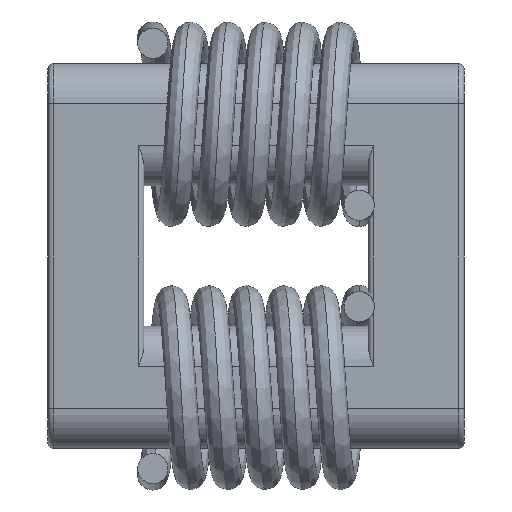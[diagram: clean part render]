
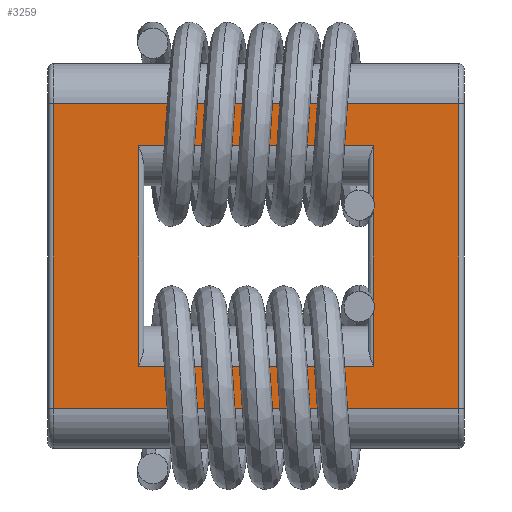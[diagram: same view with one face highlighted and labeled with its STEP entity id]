
A CAD part, front view. The second image highlights one B-rep face of the part: STEP entity #3259.
In plain terms, the highlighted planar face has unit normal (0, -1, 0).
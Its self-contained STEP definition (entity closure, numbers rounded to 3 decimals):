
#121 = ORIENTED_EDGE ( 'NONE', *, *, #5367, .T. ) ;
#123 = ORIENTED_EDGE ( 'NONE', *, *, #2606, .T. ) ;
#130 = VECTOR ( 'NONE', #5962, 1000. ) ;
#192 = VERTEX_POINT ( 'NONE', #1122 ) ;
#378 = CARTESIAN_POINT ( 'NONE',  ( -50.218, 8.69, 6.2 ) ) ;
#431 = CARTESIAN_POINT ( 'NONE',  ( -37.018, 8.69, 0. ) ) ;
#516 = LINE ( 'NONE', #431, #2998 ) ;
#608 = EDGE_CURVE ( 'NONE', #1149, #4579, #516, .T. ) ;
#622 = ORIENTED_EDGE ( 'NONE', *, *, #1193, .T. ) ;
#627 = ORIENTED_EDGE ( 'NONE', *, *, #3620, .T. ) ;
#647 = VECTOR ( 'NONE', #742, 1000. ) ;
#662 = CARTESIAN_POINT ( 'NONE',  ( -43.618, 8.69, 6.2 ) ) ;
#663 = PLANE ( 'NONE',  #4556 ) ;
#742 = DIRECTION ( 'NONE',  ( 1., 0., 0. ) ) ;
#997 = VERTEX_POINT ( 'NONE', #4633 ) ;
#1022 = CARTESIAN_POINT ( 'NONE',  ( -32.218, 8.69, -8.55 ) ) ;
#1079 = FACE_BOUND ( 'NONE', #1212, .T. ) ;
#1122 = CARTESIAN_POINT ( 'NONE',  ( -55.018, 8.69, 8.55 ) ) ;
#1149 = VERTEX_POINT ( 'NONE', #4758 ) ;
#1187 = CARTESIAN_POINT ( 'NONE',  ( -32.218, 8.69, 8.55 ) ) ;
#1193 = EDGE_CURVE ( 'NONE', #4565, #3056, #4366, .T. ) ;
#1212 = EDGE_LOOP ( 'NONE', ( #1505, #5791, #627, #622 ) ) ;
#1306 = LINE ( 'NONE', #4844, #2177 ) ;
#1468 = LINE ( 'NONE', #662, #4734 ) ;
#1505 = ORIENTED_EDGE ( 'NONE', *, *, #4459, .T. ) ;
#1552 = CARTESIAN_POINT ( 'NONE',  ( -55.018, 8.69, -8.55 ) ) ;
#1585 = EDGE_LOOP ( 'NONE', ( #121, #2240, #123, #2110 ) ) ;
#1737 = FACE_OUTER_BOUND ( 'NONE', #1585, .T. ) ;
#2101 = LINE ( 'NONE', #4078, #130 ) ;
#2110 = ORIENTED_EDGE ( 'NONE', *, *, #5823, .T. ) ;
#2165 = CARTESIAN_POINT ( 'NONE',  ( -31.918, 8.69, -8.55 ) ) ;
#2177 = VECTOR ( 'NONE', #4360, 1000. ) ;
#2240 = ORIENTED_EDGE ( 'NONE', *, *, #2893, .T. ) ;
#2293 = CARTESIAN_POINT ( 'NONE',  ( -43.618, 8.69, 0. ) ) ;
#2341 = DIRECTION ( 'NONE',  ( 0., -1., 0. ) ) ;
#2430 = DIRECTION ( 'NONE',  ( 0., 0., 1. ) ) ;
#2606 = EDGE_CURVE ( 'NONE', #5018, #4931, #4503, .T. ) ;
#2893 = EDGE_CURVE ( 'NONE', #192, #5018, #2101, .T. ) ;
#2933 = VECTOR ( 'NONE', #2430, 1000. ) ;
#2998 = VECTOR ( 'NONE', #4612, 1000. ) ;
#3056 = VERTEX_POINT ( 'NONE', #378 ) ;
#3259 = ADVANCED_FACE ( 'NONE', ( #1737, #1079 ), #663, .T. ) ;
#3525 = CARTESIAN_POINT ( 'NONE',  ( -50.218, 8.69, -6.2 ) ) ;
#3620 = EDGE_CURVE ( 'NONE', #4579, #4565, #4811, .T. ) ;
#3970 = DIRECTION ( 'NONE',  ( 0., 0., 1. ) ) ;
#4078 = CARTESIAN_POINT ( 'NONE',  ( -55.018, 8.69, -8.55 ) ) ;
#4360 = DIRECTION ( 'NONE',  ( -1., 0., 0. ) ) ;
#4366 = LINE ( 'NONE', #5208, #2933 ) ;
#4372 = CARTESIAN_POINT ( 'NONE',  ( -43.618, 8.69, -6.2 ) ) ;
#4416 = VECTOR ( 'NONE', #3970, 1000. ) ;
#4452 = CARTESIAN_POINT ( 'NONE',  ( -37.018, 8.69, -6.2 ) ) ;
#4459 = EDGE_CURVE ( 'NONE', #3056, #1149, #1468, .T. ) ;
#4503 = LINE ( 'NONE', #2165, #647 ) ;
#4556 = AXIS2_PLACEMENT_3D ( 'NONE', #2293, #2341, #5587 ) ;
#4565 = VERTEX_POINT ( 'NONE', #3525 ) ;
#4579 = VERTEX_POINT ( 'NONE', #4452 ) ;
#4612 = DIRECTION ( 'NONE',  ( 0., 0., -1. ) ) ;
#4633 = CARTESIAN_POINT ( 'NONE',  ( -32.218, 8.69, 8.55 ) ) ;
#4663 = VECTOR ( 'NONE', #5786, 1000. ) ;
#4734 = VECTOR ( 'NONE', #4873, 1000. ) ;
#4758 = CARTESIAN_POINT ( 'NONE',  ( -37.018, 8.69, 6.2 ) ) ;
#4811 = LINE ( 'NONE', #4372, #4663 ) ;
#4844 = CARTESIAN_POINT ( 'NONE',  ( -55.318, 8.69, 8.55 ) ) ;
#4873 = DIRECTION ( 'NONE',  ( 1., 0., 0. ) ) ;
#4931 = VERTEX_POINT ( 'NONE', #1022 ) ;
#5018 = VERTEX_POINT ( 'NONE', #1552 ) ;
#5208 = CARTESIAN_POINT ( 'NONE',  ( -50.218, 8.69, 0. ) ) ;
#5367 = EDGE_CURVE ( 'NONE', #997, #192, #1306, .T. ) ;
#5587 = DIRECTION ( 'NONE',  ( 0., 0., 1. ) ) ;
#5672 = LINE ( 'NONE', #1187, #4416 ) ;
#5786 = DIRECTION ( 'NONE',  ( -1., 0., 0. ) ) ;
#5791 = ORIENTED_EDGE ( 'NONE', *, *, #608, .T. ) ;
#5823 = EDGE_CURVE ( 'NONE', #4931, #997, #5672, .T. ) ;
#5962 = DIRECTION ( 'NONE',  ( 0., 0., -1. ) ) ;
